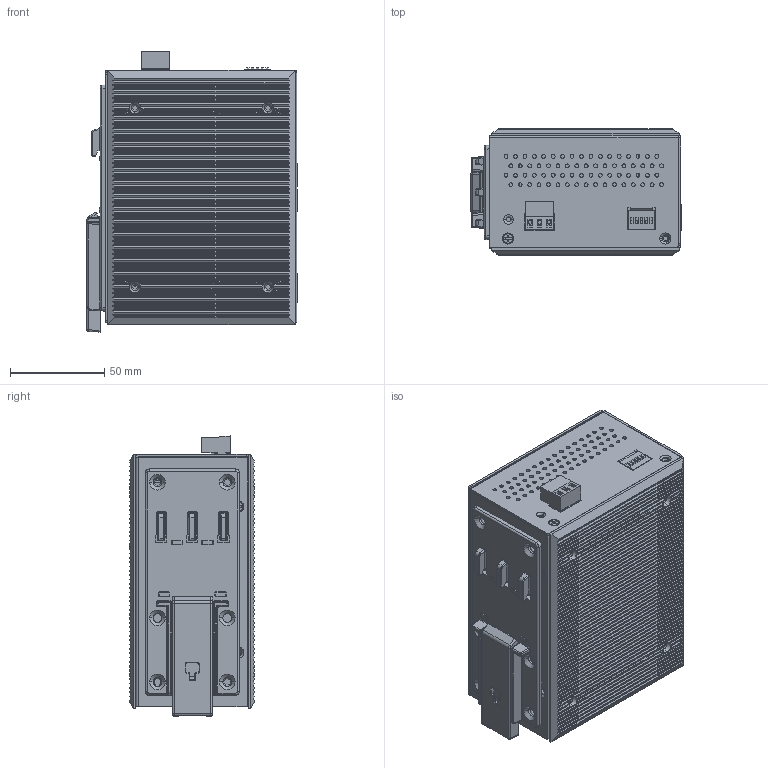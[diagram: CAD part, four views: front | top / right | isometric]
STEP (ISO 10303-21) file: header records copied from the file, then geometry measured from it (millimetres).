
FILE_DESCRIPTION((''),'2;1');
FILE_NAME('PRT0021','2016-06-20T',('Vincent_Huang'),(''),'PRO/ENGINEER BY PARAMETRIC TECHNOLOGY CORPORATION, 2013050','PRO/ENGINEER BY PARAMETRIC TECHNOLOGY CORPORATION, 2013050','');
FILE_SCHEMA(('CONFIG_CONTROL_DESIGN'));
Products named in the file (1): PRT0021
Bounding box: 111.6 x 66.78 x 148.65 mm (x, y, z)
Volume: 231501.7 mm3; surface area: 221046.1 mm2
Topology: 2 solids, 9 shells, 3201 faces, 8519 edges, 5488 vertices
Faces by surface type: plane 1494, cylinder 1394, bspline 158, torus 85, cone 50, sphere 20
Entity records: 111055 total; most frequent: CARTESIAN_POINT 31353, ORIENTED_EDGE 16938, DIRECTION 15746, EDGE_CURVE 8499, VERTEX_POINT 5489, AXIS2_PLACEMENT_3D 5312, VECTOR 5122, LINE 5122
